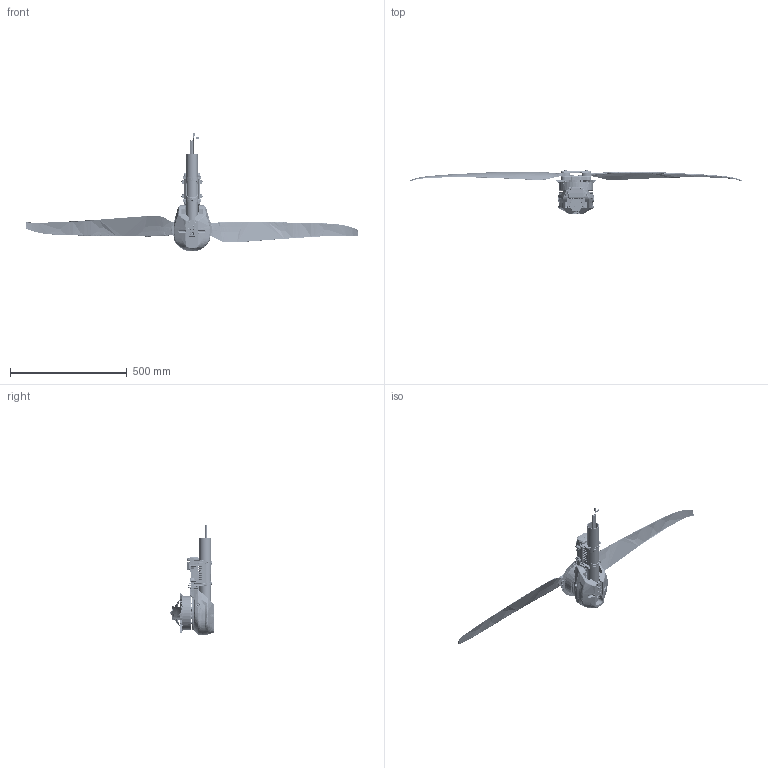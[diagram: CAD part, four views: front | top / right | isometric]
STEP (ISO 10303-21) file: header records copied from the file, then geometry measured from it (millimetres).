
FILE_DESCRIPTION((''),'2;1');
FILE_NAME('30550005323-CM-X13-G2-13825_ASM','2025-11-27T19:21:16',('Lenovo'),(''),'CREO PARAMETRIC BY PTC INC, 2021284','CREO PARAMETRIC BY PTC INC, 2021284','');
FILE_SCHEMA(('AUTOMOTIVE_DESIGN { 1 0 10303 214 1 1 1 1 }'));
Length unit declared in the file: millimetre
Products named in the file (45): 104110826AA-HM6-250001; 104110580AA--M5-180001; 104110377AA--HM3100001; D50_X13_00; 104110074AA--HM4X10001; CM-X13-13825-45KV_60KV-D50-CW_1_ASM; 11155XXXXA0--X13-G0001; 104110195AB--KM2_50001; 11140XXXXA0--138250001; 124430195B0--X15--0001; 21525XXXXA0-B--X130001_ASM; 111520196A0--X13-G0001; 111451263BB--X13-_0001; 111371368A0--X13-_0001; 111380026A0--X13-_0001; 121110488AA--D32-D0001; 104110289A0--M2_5X0001; 104110294AB--KM2_50001; 215210565A0-B--X130001_ASM; 305300128DB-UAVM-X13-G2-13825_ASM; HM2-5-8_1_1; 0006_1_1_1; HW5135-202509050001; 100010345AAM3X60001_1_1_2_1; 100010345AAM3X60001_1_1_2_2; 100010345AAM3X60001_1_1_2_ASM; 124440039B0-HW51100001_1_1; 124440043A0-HW51250001_1_1; _X13-G20001; _X13-G20002; 30502012902-XROTOR-PRO-200A-18S_ASM; 104110285AA--HM4-20001; 104110803AA--M425-0001; 104110580A0--M518-0001; _10001; _10002; 104110107A1--HM6160001_ASM; 104150035A0--D16D10001; 5620-CW-0001; 124400059A0--D32D10001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
Assembly tree (100 placements, depth 5):
  30550005323-CM-X13-G2-13825_ASM
    CM-X13-13825-45KV_60KV-D50-CW_1_ASM
      104110826AA-HM6-250001  x4
      104110580AA--M5-180001  x3
      104110377AA--HM3100001
      D50_X13_00
      104110074AA--HM4X10001  x4
    305300128DB-UAVM-X13-G2-13825_ASM
      21525XXXXA0-B--X130001_ASM
        11155XXXXA0--X13-G0001
        104110195AB--KM2_50001  x2
        11140XXXXA0--138250001
        124430195B0--X15--0001
      111520196A0--X13-G0001
      215210565A0-B--X130001_ASM
        111451263BB--X13-_0001
        111371368A0--X13-_0001
        111380026A0--X13-_0001
        121110488AA--D32-D0001
        104110289A0--M2_5X0001  x8
        104110195AB--KM2_50001  x8
        104110294AB--KM2_50001  x3
    30502012902-XROTOR-PRO-200A-18S_ASM
      HM2-5-8_1_1  x16
      0006_1_1_1
      HW5135-202509050001
      100010345AAM3X60001_1_1_2_ASM
        100010345AAM3X60001_1_1_2_1
        100010345AAM3X60001_1_1_2_2
      124440039B0-HW51100001_1_1
      124440043A0-HW51250001_1_1
      _X13-G20001
      _X13-G20002
    104110285AA--HM4-20001  x4
    104110803AA--M425-0001  x4
    30505009201-5620-V0001_ASM
      30505009201-5620-V0002_ASM
        104110580A0--M518-0001  x4
        104110107A1--HM6160001_ASM  x2
          _10001
          _10002
        104150035A0--D16D10001  x2
        5620-CW-0001  x2
        124400059A0--D32D10001  x4
        111350149A1--D14900001
        111350148A0--D14900001
Bounding box: 1422.45 x 190.7 x 508.46 mm (x, y, z)
Volume: 3055584.4 mm3; surface area: 889310.2 mm2
Topology: 114 solids, 125 shells, 22691 faces, 58769 edges, 37271 vertices
Faces by surface type: plane 11163, cylinder 6599, bspline 2008, cone 1904, torus 764, extrusion 134, sphere 119
Entity records: 688854 total; most frequent: CARTESIAN_POINT 275284, ORIENTED_EDGE 67808, DIRECTION 59386, EDGE_CURVE 33904, PRESENTATION_STYLE_ASSIGNMENT 32999, STYLED_ITEM 31859, CURVE_STYLE 31814, VERTEX_POINT 21470
